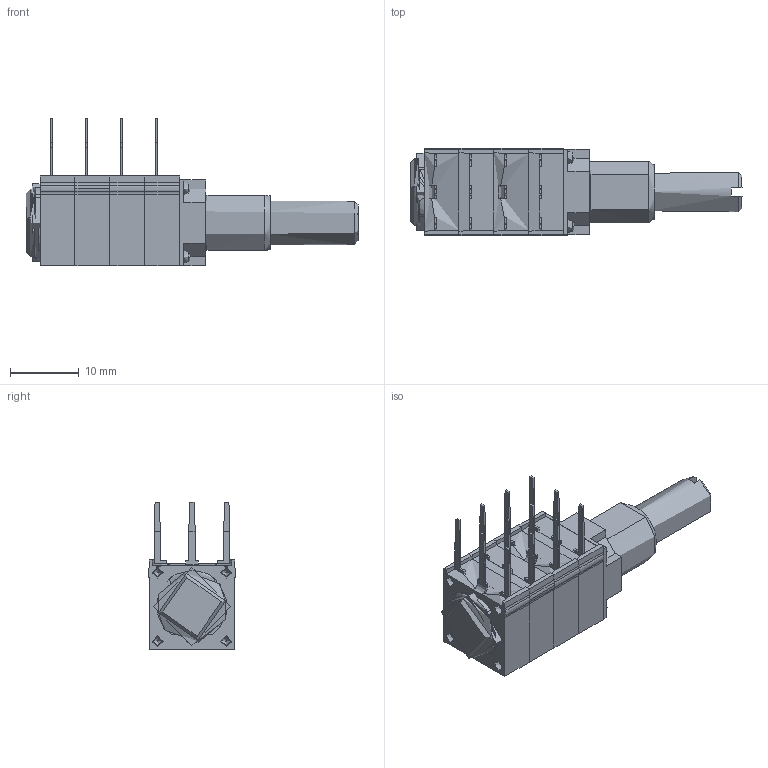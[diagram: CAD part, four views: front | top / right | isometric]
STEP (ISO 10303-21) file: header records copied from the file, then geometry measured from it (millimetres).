
FILE_DESCRIPTION(/* description */ (''),/* implementation_level */ '2;1');
FILE_NAME(/* name */ 'P11A4F0GJSX00',/* time_stamp */ '2020-09-16T09:26:33+02:00',/* author */ (''),/* organization */ ('VISHAY '),/* preprocessor_version */ 'ST-DEVELOPER v16.7',/* originating_system */ 'DEX',/* authorisation */ $);
FILE_SCHEMA (('AUTOMOTIVE_DESIGN {1 0 10303 214 3 1 1}'));
Length unit declared in the file: millimetre
Products named in the file (57): P11A4F0GJSX00; P11A4F0GJSX00_0; P11A4F0GJSX00_1; P11A4F0GJSX00_2; P11A4F0GJSX00_3; P11A4F0GJSX00_4; P11A4F0GJSX00_5; P11A4F0GJSX00_6; P11A4F0GJSX00_7; P11A4F0GJSX00_8; P11A4F0GJSX00_9; P11A4F0GJSX00_10; P11A4F0GJSX00_11; P11A4F0GJSX00_12; P11A4F0GJSX00_13; P11A4F0GJSX00_14; P11A4F0GJSX00_15; P11A4F0GJSX00_16; P11A4F0GJSX00_17; P11A4F0GJSX00_18; P11A4F0GJSX00_19; P11A4F0GJSX00_20; P11A4F0GJSX00_21; P11A4F0GJSX00_22; P11A4F0GJSX00_23; P11A4F0GJSX00_24; P11A4F0GJSX00_25; P11A4F0GJSX00_26; P11A4F0GJSX00_27; P11A4F0GJSX00_28; P11A4F0GJSX00_29; P11A4F0GJSX00_30; P11A4F0GJSX00_31; P11A4F0GJSX00_32; P11A4F0GJSX00_33; P11A4F0GJSX00_34; P11A4F0GJSX00_35; P11A4F0GJSX00_36; P11A4F0GJSX00_37; P11A4F0GJSX00_38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
Assembly tree (56 placements, depth 4):
  P11A4F0GJSX00
    P11A4F0GJSX00
      P11A4F0GJSX00_0
        P11A4F0GJSX00
        P11A4F0GJSX00_0
        P11A4F0GJSX00_1
      P11A4F0GJSX00_2
      P11A4F0GJSX00_3
      P11A4F0GJSX00_4
      P11A4F0GJSX00_5
      P11A4F0GJSX00_6
    P11A4F0GJSX00_1
      P11A4F0GJSX00_2
        P11A4F0GJSX00_7
        P11A4F0GJSX00_8
        P11A4F0GJSX00_9
      P11A4F0GJSX00_10
      P11A4F0GJSX00_11
      P11A4F0GJSX00_12
      P11A4F0GJSX00_13
      P11A4F0GJSX00_14
      P11A4F0GJSX00_15
      P11A4F0GJSX00_16
      P11A4F0GJSX00_17
    P11A4F0GJSX00_3
      P11A4F0GJSX00_4
        P11A4F0GJSX00_18
        P11A4F0GJSX00_19
        P11A4F0GJSX00_20
      P11A4F0GJSX00_21
      P11A4F0GJSX00_22
      P11A4F0GJSX00_23
      P11A4F0GJSX00_24
      P11A4F0GJSX00_25
      P11A4F0GJSX00_26
      P11A4F0GJSX00_27
      P11A4F0GJSX00_28
    P11A4F0GJSX00_5
      P11A4F0GJSX00_6
        P11A4F0GJSX00_29
        P11A4F0GJSX00_30
        P11A4F0GJSX00_31
      P11A4F0GJSX00_32
      P11A4F0GJSX00_33
      P11A4F0GJSX00_34
      P11A4F0GJSX00_35
      P11A4F0GJSX00_36
      P11A4F0GJSX00_37
      P11A4F0GJSX00_38
      P11A4F0GJSX00_39
      P11A4F0GJSX00_40
    P11A4F0GJSX00_41
    P11A4F0GJSX00_42
    P11A4F0GJSX00_43
    P11A4F0GJSX00_44
    P11A4F0GJSX00_45
    P11A4F0GJSX00_46
Bounding box: 48.37 x 12.79 x 21.5 mm (x, y, z)
Topology: 44 solids, 224 shells, 1294 faces, 3646 edges, 2597 vertices
Faces by surface type: plane 749, cylinder 369, cone 150, bspline 15, torus 11
Full cylindrical faces by diameter (mm): 0.996 x12, 1.3 x28, 1.5 x38, 1.55 x4, 3.97 x1, 4.1 x4, 5.9 x1, 6.35 x2, 7.368 x1, 7.42 x1, 8.4 x1, 9.65 x1, 10.257 x1, 10.6 x2, 11.35 x4
Entity records: 44811 total; most frequent: CARTESIAN_POINT 9759, DIRECTION 6459, ORIENTED_EDGE 6004, EDGE_CURVE 3398, VERTEX_POINT 2543, AXIS2_PLACEMENT_3D 2247, LINE 1965, VECTOR 1965
